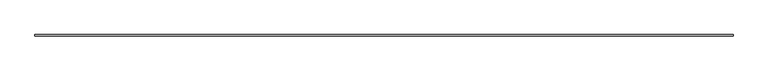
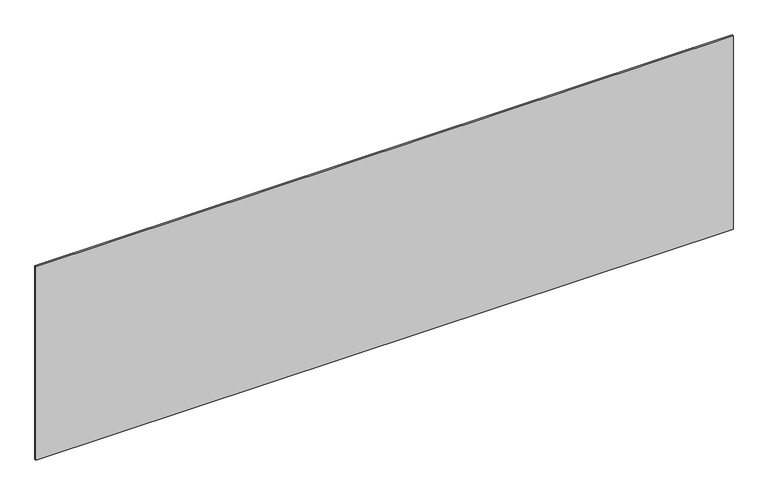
"""IFC4 building model written with IfcOpenShell, lengths in millimetres: plate geometry, システム パネル : 標準."""

from ifc_helpers import new_model, si_unit, origin, origin_with_axes, place, context, project, spatial, polyline, outline, extrude, source, transform, mapped, element, save


def plate_135fa1a3(model_context):
    return source(origin(), model_context, "Body", "SweptSolid", [
        extrude(outline(polyline([(2264.1666667, -5.0), (-2264.1666667, -5.0), (-2264.1666667, 5.0), (2264.1666667, 5.0), (2264.1666667, -5.0)])), origin_with_axes(), (0.0, 0.0, 1.0), 1327.5187473),
    ])


if __name__ == "__main__":
    model = new_model("IFC4")
    model_context = context("Model", 3, world=origin())
    ifc_project = project(units=[si_unit("LENGTHUNIT", "METRE", prefix="MILLI")], contexts=[model_context])
    site = spatial("IfcSite", under=ifc_project)
    building = spatial("IfcBuilding", under=site)
    placement = place(None, origin())
    plate_shape = plate_135fa1a3(model_context)
    element("IfcPlate", 1, ObjectType="システム パネル : 標準", at=placement, inside=building, context=model_context, shape_type="MappedRepresentation", body=[
        mapped(plate_shape, transform((0.0, 0.0, 0.0), x_axis=(1.0, 0.0, 0.0), y_axis=(0.0, 1.0, 0.0), z_axis=(0.0, 0.0, 1.0))),
    ])
    save(model, "model.ifc")
